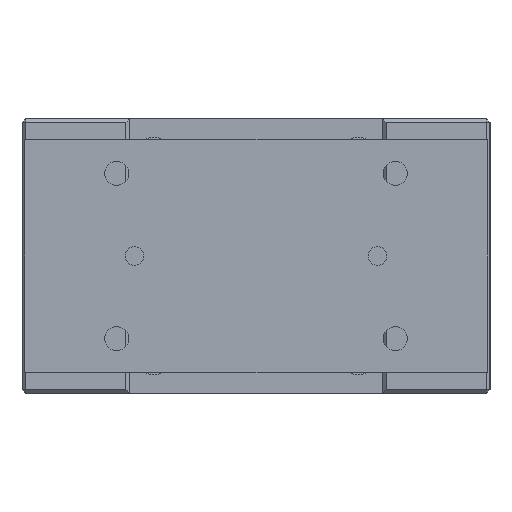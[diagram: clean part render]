
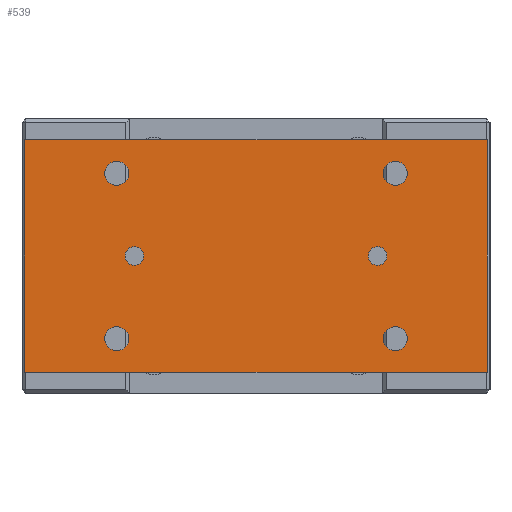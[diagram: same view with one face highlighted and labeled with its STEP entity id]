
A CAD part, left-side view. The second image highlights one B-rep face of the part: STEP entity #539.
In plain terms, the highlighted planar face has unit normal (-1, 0, 0).
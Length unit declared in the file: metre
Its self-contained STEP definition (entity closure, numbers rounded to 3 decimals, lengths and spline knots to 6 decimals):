
#539 = ADVANCED_FACE( '', ( #1255, #1256, #1257, #1258, #1259, #1260, #1261 ), #1262, .T. );
#1255 = FACE_BOUND( '', #2145, .T. );
#1256 = FACE_BOUND( '', #2146, .T. );
#1257 = FACE_BOUND( '', #2147, .T. );
#1258 = FACE_BOUND( '', #2148, .T. );
#1259 = FACE_BOUND( '', #2149, .T. );
#1260 = FACE_BOUND( '', #2150, .T. );
#1261 = FACE_OUTER_BOUND( '', #2151, .T. );
#1262 = PLANE( '', #2152 );
#2145 = EDGE_LOOP( '', ( #3509 ) );
#2146 = EDGE_LOOP( '', ( #3510 ) );
#2147 = EDGE_LOOP( '', ( #3511 ) );
#2148 = EDGE_LOOP( '', ( #3512 ) );
#2149 = EDGE_LOOP( '', ( #3513 ) );
#2150 = EDGE_LOOP( '', ( #3514 ) );
#2151 = EDGE_LOOP( '', ( #3515, #3516, #3517, #3518 ) );
#2152 = AXIS2_PLACEMENT_3D( '', #3519, #3520, #3521 );
#3509 = ORIENTED_EDGE( '', *, *, #4350, .F. );
#3510 = ORIENTED_EDGE( '', *, *, #4730, .T. );
#3511 = ORIENTED_EDGE( '', *, *, #4490, .F. );
#3512 = ORIENTED_EDGE( '', *, *, #4422, .F. );
#3513 = ORIENTED_EDGE( '', *, *, #4731, .F. );
#3514 = ORIENTED_EDGE( '', *, *, #4596, .F. );
#3515 = ORIENTED_EDGE( '', *, *, #4732, .T. );
#3516 = ORIENTED_EDGE( '', *, *, #4397, .T. );
#3517 = ORIENTED_EDGE( '', *, *, #4673, .T. );
#3518 = ORIENTED_EDGE( '', *, *, #4733, .T. );
#3519 = CARTESIAN_POINT( '', ( -0.143, -0.1245, -0.0115 ) );
#3520 = DIRECTION( '', ( -1., 0., 0. ) );
#3521 = DIRECTION( '', ( 0., 0., 1. ) );
#4350 = EDGE_CURVE( '', #5038, #5038, #5039, .T. );
#4397 = EDGE_CURVE( '', #5117, #5115, #5118, .T. );
#4422 = EDGE_CURVE( '', #5159, #5159, #5160, .T. );
#4490 = EDGE_CURVE( '', #5271, #5271, #5272, .T. );
#4596 = EDGE_CURVE( '', #5429, #5429, #5430, .T. );
#4673 = EDGE_CURVE( '', #5115, #5540, #5542, .T. );
#4730 = EDGE_CURVE( '', #5620, #5620, #5621, .T. );
#4731 = EDGE_CURVE( '', #5622, #5622, #5623, .T. );
#4732 = EDGE_CURVE( '', #5624, #5117, #5625, .T. );
#4733 = EDGE_CURVE( '', #5540, #5624, #5626, .T. );
#5038 = VERTEX_POINT( '', #6029 );
#5039 = CIRCLE( '', #6030, 0.005 );
#5115 = VERTEX_POINT( '', #6134 );
#5117 = VERTEX_POINT( '', #6137 );
#5118 = LINE( '', #6138, #6139 );
#5159 = VERTEX_POINT( '', #6225 );
#5160 = CIRCLE( '', #6226, 0.0065 );
#5271 = VERTEX_POINT( '', #6372 );
#5272 = CIRCLE( '', #6373, 0.0065 );
#5429 = VERTEX_POINT( '', #6672 );
#5430 = CIRCLE( '', #6673, 0.0065 );
#5540 = VERTEX_POINT( '', #6816 );
#5542 = LINE( '', #6819, #6820 );
#5620 = VERTEX_POINT( '', #6946 );
#5621 = CIRCLE( '', #6947, 0.005 );
#5622 = VERTEX_POINT( '', #6948 );
#5623 = CIRCLE( '', #6949, 0.0065 );
#5624 = VERTEX_POINT( '', #6950 );
#5625 = LINE( '', #6951, #6952 );
#5626 = LINE( '', #6953, #6954 );
#6029 = CARTESIAN_POINT( '', ( -0.143, -0.0705, -0.074 ) );
#6030 = AXIS2_PLACEMENT_3D( '', #7376, #7377, #7378 );
#6134 = CARTESIAN_POINT( '', ( -0.143, 0.1245, -0.0115 ) );
#6137 = CARTESIAN_POINT( '', ( -0.143, -0.1245, -0.0115 ) );
#6138 = CARTESIAN_POINT( '', ( -0.143, -0.1245, -0.0115 ) );
#6139 = VECTOR( '', #7423, 1. );
#6225 = CARTESIAN_POINT( '', ( -0.143, 0.075, -0.112 ) );
#6226 = AXIS2_PLACEMENT_3D( '', #7457, #7458, #7459 );
#6372 = CARTESIAN_POINT( '', ( -0.143, -0.075, -0.112 ) );
#6373 = AXIS2_PLACEMENT_3D( '', #7540, #7541, #7542 );
#6672 = CARTESIAN_POINT( '', ( -0.143, 0.075, -0.023 ) );
#6673 = AXIS2_PLACEMENT_3D( '', #7658, #7659, #7660 );
#6816 = CARTESIAN_POINT( '', ( -0.143, 0.1245, -0.1365 ) );
#6819 = CARTESIAN_POINT( '', ( -0.143, 0.1245, -0.0115 ) );
#6820 = VECTOR( '', #7737, 1. );
#6946 = CARTESIAN_POINT( '', ( -0.143, 0.0705, -0.074 ) );
#6947 = AXIS2_PLACEMENT_3D( '', #7804, #7805, #7806 );
#6948 = CARTESIAN_POINT( '', ( -0.143, -0.075, -0.023 ) );
#6949 = AXIS2_PLACEMENT_3D( '', #7807, #7808, #7809 );
#6950 = CARTESIAN_POINT( '', ( -0.143, -0.1245, -0.1365 ) );
#6951 = CARTESIAN_POINT( '', ( -0.143, -0.1245, -0.1365 ) );
#6952 = VECTOR( '', #7810, 1. );
#6953 = CARTESIAN_POINT( '', ( -0.143, 0.1245, -0.1365 ) );
#6954 = VECTOR( '', #7811, 1. );
#7376 = CARTESIAN_POINT( '', ( -0.143, -0.0655, -0.074 ) );
#7377 = DIRECTION( '', ( -1., 0., 0. ) );
#7378 = DIRECTION( '', ( 0., -1., 0. ) );
#7423 = DIRECTION( '', ( 0., 1., 0. ) );
#7457 = CARTESIAN_POINT( '', ( -0.143, 0.075, -0.1185 ) );
#7458 = DIRECTION( '', ( -1., 0., 0. ) );
#7459 = DIRECTION( '', ( 0., 0., 1. ) );
#7540 = CARTESIAN_POINT( '', ( -0.143, -0.075, -0.1185 ) );
#7541 = DIRECTION( '', ( -1., 0., 0. ) );
#7542 = DIRECTION( '', ( 0., 0., 1. ) );
#7658 = CARTESIAN_POINT( '', ( -0.143, 0.075, -0.0295 ) );
#7659 = DIRECTION( '', ( -1., 0., 0. ) );
#7660 = DIRECTION( '', ( 0., 0., 1. ) );
#7737 = DIRECTION( '', ( 0., 0., -1. ) );
#7804 = CARTESIAN_POINT( '', ( -0.143, 0.0655, -0.074 ) );
#7805 = DIRECTION( '', ( 1., 0., 0. ) );
#7806 = DIRECTION( '', ( 0., 1., 0. ) );
#7807 = CARTESIAN_POINT( '', ( -0.143, -0.075, -0.0295 ) );
#7808 = DIRECTION( '', ( -1., 0., 0. ) );
#7809 = DIRECTION( '', ( 0., 0., 1. ) );
#7810 = DIRECTION( '', ( 0., 0., 1. ) );
#7811 = DIRECTION( '', ( 0., -1., 0. ) );
